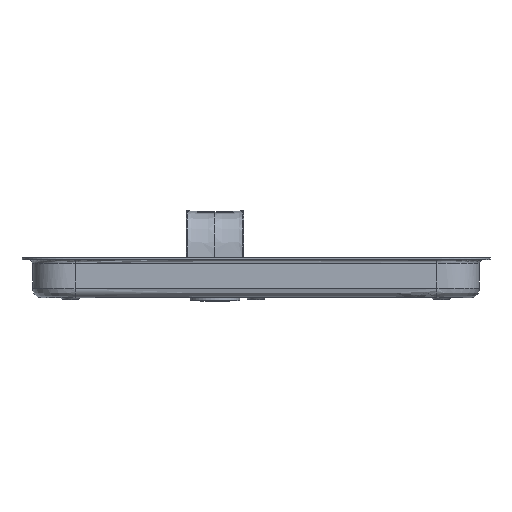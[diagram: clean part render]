
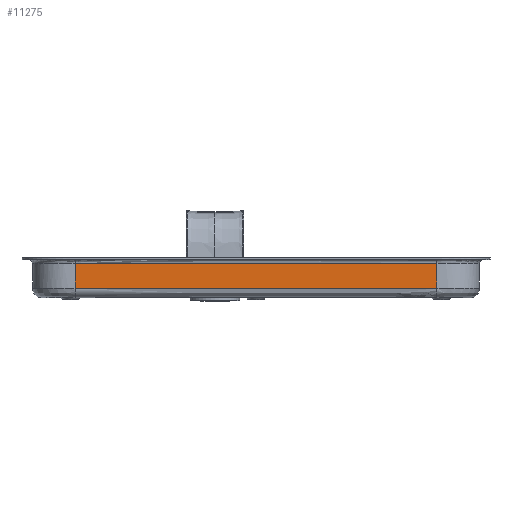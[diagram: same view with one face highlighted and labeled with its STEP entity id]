
A CAD part, left-side view. The second image highlights one B-rep face of the part: STEP entity #11275.
In plain terms, the highlighted free-form (B-spline) face has degree [2, 1] with [3, 2] control points.
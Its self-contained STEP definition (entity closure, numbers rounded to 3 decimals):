
#268=B_SPLINE_SURFACE_WITH_KNOTS('',2,1,((#28411,#28412),(#28413,#28414),
(#28415,#28416)),.UNSPECIFIED.,.F.,.F.,.F.,(3,3),(2,2),(-1.,0.),(0.,2.4),
 .UNSPECIFIED.);
#725=B_SPLINE_CURVE_WITH_KNOTS('',3,(#27585,#27586,#27587,#27588),
 .UNSPECIFIED.,.F.,.F.,(4,4),(0.,18.943),.UNSPECIFIED.);
#743=B_SPLINE_CURVE_WITH_KNOTS('',2,(#28417,#28418,#28419),
 .UNSPECIFIED.,.F.,.F.,(3,3),(0.,18.943),.UNSPECIFIED.);
#1842=LINE('',#28329,#2729);
#1844=LINE('',#28397,#2731);
#2729=VECTOR('',#13685,10.);
#2731=VECTOR('',#13687,10.);
#3316=FACE_OUTER_BOUND('',#4009,.T.);
#4009=EDGE_LOOP('',(#9698,#9699,#9700,#9701));
#5148=VERTEX_POINT('',#27547);
#5149=VERTEX_POINT('',#27584);
#5161=VERTEX_POINT('',#28279);
#5162=VERTEX_POINT('',#28347);
#6648=EDGE_CURVE('',#5149,#5148,#725,.T.);
#6677=EDGE_CURVE('',#5161,#5148,#1842,.T.);
#6680=EDGE_CURVE('',#5149,#5162,#1844,.T.);
#6684=EDGE_CURVE('',#5161,#5162,#743,.T.);
#9698=ORIENTED_EDGE('',*,*,#6684,.T.);
#9699=ORIENTED_EDGE('',*,*,#6680,.F.);
#9700=ORIENTED_EDGE('',*,*,#6648,.T.);
#9701=ORIENTED_EDGE('',*,*,#6677,.F.);
#11275=ADVANCED_FACE('',(#3316),#268,.T.);
#13685=DIRECTION('',(0.,0.,1.));
#13687=DIRECTION('',(0.,0.,-1.));
#27547=CARTESIAN_POINT('',(-112.996,109.085,7.985));
#27584=CARTESIAN_POINT('',(-112.996,-80.347,7.985));
#27585=CARTESIAN_POINT('Ctrl Pts',(-112.996,-80.347,
7.985));
#27586=CARTESIAN_POINT('Ctrl Pts',(-112.996,-17.203,
7.985));
#27587=CARTESIAN_POINT('Ctrl Pts',(-112.996,45.941,7.985));
#27588=CARTESIAN_POINT('Ctrl Pts',(-112.996,109.085,7.985));
#28279=CARTESIAN_POINT('',(-112.996,109.085,-5.015));
#28329=CARTESIAN_POINT('',(-112.996,109.085,-5.015));
#28347=CARTESIAN_POINT('',(-112.996,-80.347,-5.015));
#28397=CARTESIAN_POINT('',(-112.996,-80.347,7.985));
#28411=CARTESIAN_POINT('Ctrl Pts',(-112.996,-80.347,
9.985));
#28412=CARTESIAN_POINT('Ctrl Pts',(-112.996,-80.347,
-14.015));
#28413=CARTESIAN_POINT('Ctrl Pts',(-112.996,14.369,9.985));
#28414=CARTESIAN_POINT('Ctrl Pts',(-112.996,14.369,-14.015));
#28415=CARTESIAN_POINT('Ctrl Pts',(-112.996,109.085,9.985));
#28416=CARTESIAN_POINT('Ctrl Pts',(-112.996,109.085,-14.015));
#28417=CARTESIAN_POINT('Ctrl Pts',(-112.996,109.085,-5.015));
#28418=CARTESIAN_POINT('Ctrl Pts',(-112.996,14.369,-5.015));
#28419=CARTESIAN_POINT('Ctrl Pts',(-112.996,-80.347,
-5.015));
